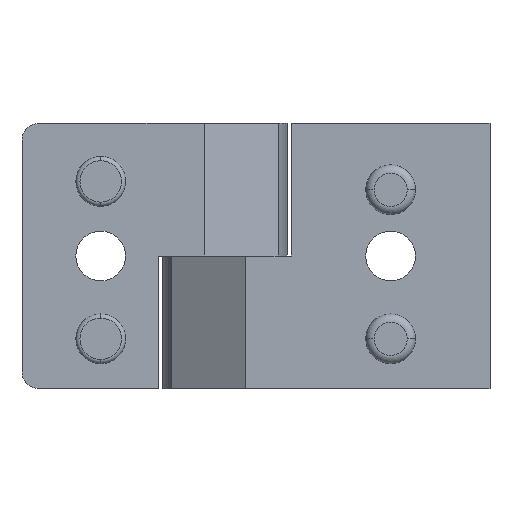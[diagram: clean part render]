
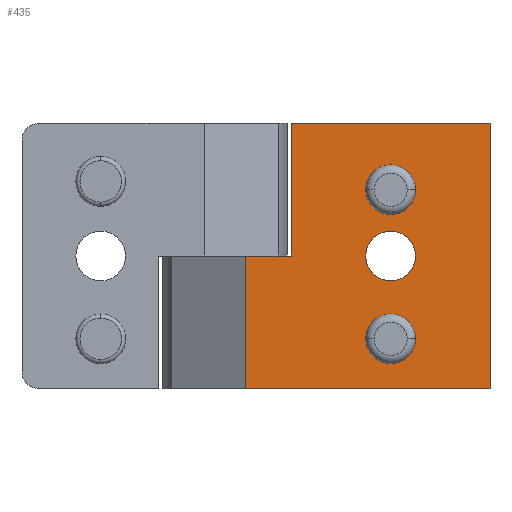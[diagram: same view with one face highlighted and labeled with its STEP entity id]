
A CAD part, front view. The second image highlights one B-rep face of the part: STEP entity #435.
In plain terms, the highlighted planar face has unit normal (0, -1, 0).
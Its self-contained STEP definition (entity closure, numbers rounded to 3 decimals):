
#26 = EDGE_CURVE ( 'NONE', #1681, #1641, #1144, .T. ) ;
#41 = DIRECTION ( 'NONE',  ( -1., 0., 0. ) ) ;
#102 = EDGE_LOOP ( 'NONE', ( #1923, #1617 ) ) ;
#111 = VERTEX_POINT ( 'NONE', #1593 ) ;
#160 = DIRECTION ( 'NONE',  ( 0., -1., 0. ) ) ;
#188 = EDGE_CURVE ( 'NONE', #111, #285, #1610, .T. ) ;
#191 = FACE_BOUND ( 'NONE', #1460, .T. ) ;
#214 = CARTESIAN_POINT ( 'NONE',  ( 26.884, -4.61, 32. ) ) ;
#217 = CARTESIAN_POINT ( 'NONE',  ( 29.884, -4.61, 32. ) ) ;
#237 = CIRCLE ( 'NONE', #2138, 3. ) ;
#251 = DIRECTION ( 'NONE',  ( 1., 0., 0. ) ) ;
#259 = ORIENTED_EDGE ( 'NONE', *, *, #1625, .F. ) ;
#261 = CARTESIAN_POINT ( 'NONE',  ( 38.884, -4.61, 16. ) ) ;
#270 = DIRECTION ( 'NONE',  ( 1., 0., 0. ) ) ;
#285 = VERTEX_POINT ( 'NONE', #1169 ) ;
#297 = CARTESIAN_POINT ( 'NONE',  ( 23.884, -4.61, 40. ) ) ;
#312 = ORIENTED_EDGE ( 'NONE', *, *, #26, .T. ) ;
#316 = DIRECTION ( 'NONE',  ( -1., 0., 0. ) ) ;
#369 = CARTESIAN_POINT ( 'NONE',  ( 26.884, -4.61, 40. ) ) ;
#379 = ORIENTED_EDGE ( 'NONE', *, *, #1022, .F. ) ;
#435 = ADVANCED_FACE ( 'NONE', ( #191, #1449, #1436, #984 ), #1890, .F. ) ;
#444 = AXIS2_PLACEMENT_3D ( 'NONE', #513, #1784, #1556 ) ;
#458 = DIRECTION ( 'NONE',  ( 0., 0., 1. ) ) ;
#464 = DIRECTION ( 'NONE',  ( 0., -1., 0. ) ) ;
#474 = LINE ( 'NONE', #261, #676 ) ;
#480 = EDGE_CURVE ( 'NONE', #1453, #1682, #237, .T. ) ;
#487 = DIRECTION ( 'NONE',  ( 0., 1., 0. ) ) ;
#502 = VERTEX_POINT ( 'NONE', #630 ) ;
#513 = CARTESIAN_POINT ( 'NONE',  ( 26.884, -4.61, 22. ) ) ;
#535 = CARTESIAN_POINT ( 'NONE',  ( 38.884, -4.61, 48. ) ) ;
#587 = CARTESIAN_POINT ( 'NONE',  ( 23.884, -4.61, 22. ) ) ;
#630 = CARTESIAN_POINT ( 'NONE',  ( 14.884, -4.61, 48. ) ) ;
#645 = VECTOR ( 'NONE', #1157, 1000. ) ;
#676 = VECTOR ( 'NONE', #41, 1000. ) ;
#677 = CARTESIAN_POINT ( 'NONE',  ( 9.384, -4.61, 16. ) ) ;
#703 = VECTOR ( 'NONE', #458, 1000. ) ;
#704 = CARTESIAN_POINT ( 'NONE',  ( 26.884, -4.61, 32. ) ) ;
#718 = VERTEX_POINT ( 'NONE', #794 ) ;
#755 = LINE ( 'NONE', #535, #1094 ) ;
#794 = CARTESIAN_POINT ( 'NONE',  ( 14.884, -4.61, 32. ) ) ;
#800 = DIRECTION ( 'NONE',  ( 1., 0., 0. ) ) ;
#804 = EDGE_CURVE ( 'NONE', #1682, #1453, #1552, .T. ) ;
#837 = AXIS2_PLACEMENT_3D ( 'NONE', #1913, #1239, #1017 ) ;
#872 = CIRCLE ( 'NONE', #1733, 3. ) ;
#889 = LINE ( 'NONE', #677, #703 ) ;
#896 = CARTESIAN_POINT ( 'NONE',  ( 26.884, -4.61, 40. ) ) ;
#898 = ORIENTED_EDGE ( 'NONE', *, *, #1810, .F. ) ;
#923 = DIRECTION ( 'NONE',  ( 0., 0., 1. ) ) ;
#942 = ORIENTED_EDGE ( 'NONE', *, *, #2092, .F. ) ;
#984 = FACE_BOUND ( 'NONE', #102, .T. ) ;
#1014 = CARTESIAN_POINT ( 'NONE',  ( -0.616, -4.61, 32. ) ) ;
#1017 = DIRECTION ( 'NONE',  ( 1., 0., 0. ) ) ;
#1021 = ORIENTED_EDGE ( 'NONE', *, *, #1311, .F. ) ;
#1022 = EDGE_CURVE ( 'NONE', #1807, #1586, #889, .T. ) ;
#1094 = VECTOR ( 'NONE', #316, 1000. ) ;
#1119 = CARTESIAN_POINT ( 'NONE',  ( 9.384, -4.61, 32. ) ) ;
#1143 = CARTESIAN_POINT ( 'NONE',  ( 14.884, -4.61, 32. ) ) ;
#1144 = CIRCLE ( 'NONE', #1694, 3. ) ;
#1157 = DIRECTION ( 'NONE',  ( 0., 0., 1. ) ) ;
#1169 = CARTESIAN_POINT ( 'NONE',  ( 38.884, -4.61, 48. ) ) ;
#1217 = DIRECTION ( 'NONE',  ( 1., 0., 0. ) ) ;
#1237 = LINE ( 'NONE', #1014, #1918 ) ;
#1239 = DIRECTION ( 'NONE',  ( 0., -1., 0. ) ) ;
#1287 = EDGE_LOOP ( 'NONE', ( #312, #1346 ) ) ;
#1311 = EDGE_CURVE ( 'NONE', #718, #502, #1365, .T. ) ;
#1346 = ORIENTED_EDGE ( 'NONE', *, *, #1877, .T. ) ;
#1357 = CARTESIAN_POINT ( 'NONE',  ( 29.884, -4.61, 22. ) ) ;
#1365 = LINE ( 'NONE', #1143, #1377 ) ;
#1377 = VECTOR ( 'NONE', #923, 1000. ) ;
#1380 = CARTESIAN_POINT ( 'NONE',  ( 38.884, -4.61, 16. ) ) ;
#1436 = FACE_OUTER_BOUND ( 'NONE', #1511, .T. ) ;
#1442 = DIRECTION ( 'NONE',  ( 0., 1., 0. ) ) ;
#1449 = FACE_BOUND ( 'NONE', #1287, .T. ) ;
#1453 = VERTEX_POINT ( 'NONE', #297 ) ;
#1460 = EDGE_LOOP ( 'NONE', ( #942, #898 ) ) ;
#1501 = ORIENTED_EDGE ( 'NONE', *, *, #188, .T. ) ;
#1511 = EDGE_LOOP ( 'NONE', ( #1872, #1021, #259, #379, #1620, #1501 ) ) ;
#1546 = CIRCLE ( 'NONE', #444, 3. ) ;
#1552 = CIRCLE ( 'NONE', #1955, 3. ) ;
#1556 = DIRECTION ( 'NONE',  ( 1., 0., 0. ) ) ;
#1586 = VERTEX_POINT ( 'NONE', #1119 ) ;
#1593 = CARTESIAN_POINT ( 'NONE',  ( 38.884, -4.61, 16. ) ) ;
#1610 = LINE ( 'NONE', #1380, #645 ) ;
#1617 = ORIENTED_EDGE ( 'NONE', *, *, #480, .F. ) ;
#1620 = ORIENTED_EDGE ( 'NONE', *, *, #1763, .F. ) ;
#1625 = EDGE_CURVE ( 'NONE', #1586, #718, #1237, .T. ) ;
#1633 = CARTESIAN_POINT ( 'NONE',  ( 23.884, -4.61, 32. ) ) ;
#1641 = VERTEX_POINT ( 'NONE', #1633 ) ;
#1647 = EDGE_CURVE ( 'NONE', #285, #502, #755, .T. ) ;
#1666 = CARTESIAN_POINT ( 'NONE',  ( 38.884, -4.61, 16. ) ) ;
#1681 = VERTEX_POINT ( 'NONE', #217 ) ;
#1682 = VERTEX_POINT ( 'NONE', #2140 ) ;
#1688 = CARTESIAN_POINT ( 'NONE',  ( 9.384, -4.61, 16. ) ) ;
#1694 = AXIS2_PLACEMENT_3D ( 'NONE', #214, #2137, #1920 ) ;
#1733 = AXIS2_PLACEMENT_3D ( 'NONE', #704, #487, #270 ) ;
#1763 = EDGE_CURVE ( 'NONE', #111, #1807, #474, .T. ) ;
#1784 = DIRECTION ( 'NONE',  ( 0., -1., 0. ) ) ;
#1807 = VERTEX_POINT ( 'NONE', #1688 ) ;
#1810 = EDGE_CURVE ( 'NONE', #1811, #1850, #1874, .T. ) ;
#1811 = VERTEX_POINT ( 'NONE', #587 ) ;
#1850 = VERTEX_POINT ( 'NONE', #1357 ) ;
#1872 = ORIENTED_EDGE ( 'NONE', *, *, #1647, .T. ) ;
#1874 = CIRCLE ( 'NONE', #837, 3. ) ;
#1877 = EDGE_CURVE ( 'NONE', #1641, #1681, #872, .T. ) ;
#1884 = AXIS2_PLACEMENT_3D ( 'NONE', #1666, #1442, #1217 ) ;
#1890 = PLANE ( 'NONE',  #1884 ) ;
#1913 = CARTESIAN_POINT ( 'NONE',  ( 26.884, -4.61, 22. ) ) ;
#1918 = VECTOR ( 'NONE', #800, 1000. ) ;
#1920 = DIRECTION ( 'NONE',  ( 1., 0., 0. ) ) ;
#1923 = ORIENTED_EDGE ( 'NONE', *, *, #804, .F. ) ;
#1955 = AXIS2_PLACEMENT_3D ( 'NONE', #369, #160, #2084 ) ;
#2084 = DIRECTION ( 'NONE',  ( 1., 0., 0. ) ) ;
#2092 = EDGE_CURVE ( 'NONE', #1850, #1811, #1546, .T. ) ;
#2137 = DIRECTION ( 'NONE',  ( 0., 1., 0. ) ) ;
#2138 = AXIS2_PLACEMENT_3D ( 'NONE', #896, #464, #251 ) ;
#2140 = CARTESIAN_POINT ( 'NONE',  ( 29.884, -4.61, 40. ) ) ;
